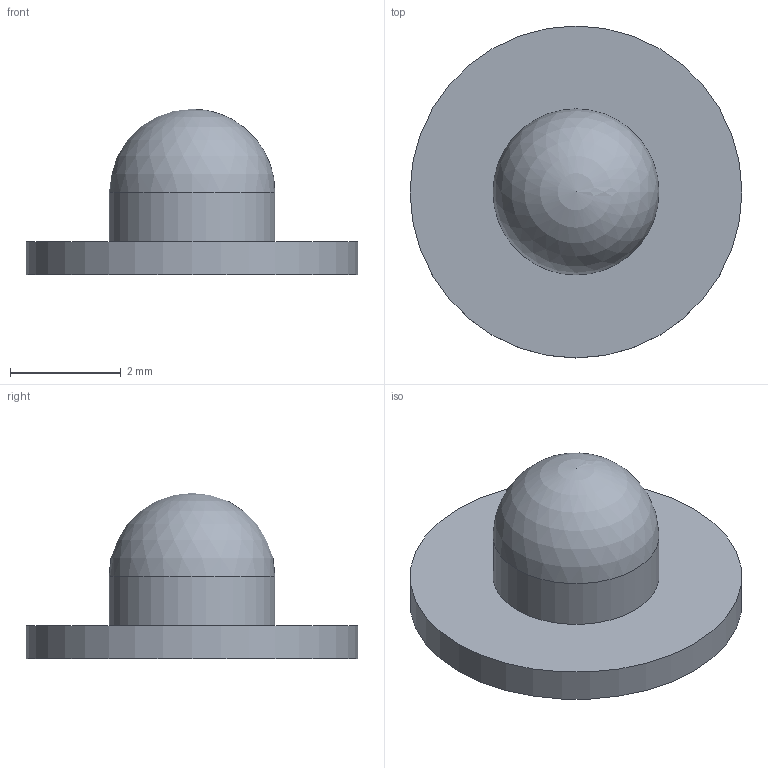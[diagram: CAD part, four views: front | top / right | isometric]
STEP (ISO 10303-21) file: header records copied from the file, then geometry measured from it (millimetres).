
FILE_DESCRIPTION(('FreeCAD Model'),'2;1');
FILE_NAME('Open CASCADE Shape Model','2026-10-20T15:18:15',('FreeCAD'),( 'FreeCAD'),'Open CASCADE STEP processor 7.8','FreeCAD','Unknown');
FILE_SCHEMA(('AUTOMOTIVE_DESIGN { 1 0 10303 214 1 1 1 1 }'));
Length unit declared in the file: millimetre
Products named in the file (1): Open CASCADE STEP translator 7.8 16
Bounding box: 6 x 6 x 3 mm (x, y, z)
Volume: 25.4 mm3; surface area: 96 mm2
Topology: 1 solids, 1 shells, 7 faces, 11 edges, 7 vertices
Faces by surface type: cylinder 3, plane 3, sphere 1
Full cylindrical faces by diameter (mm): 1.6 x1, 3 x1, 6 x1
Entity records: 169 total; most frequent: DIRECTION 33, CARTESIAN_POINT 25, ORIENTED_EDGE 20, AXIS2_PLACEMENT_3D 15, EDGE_CURVE 10, FACE_BOUND 9, EDGE_LOOP 9, ADVANCED_FACE 7
